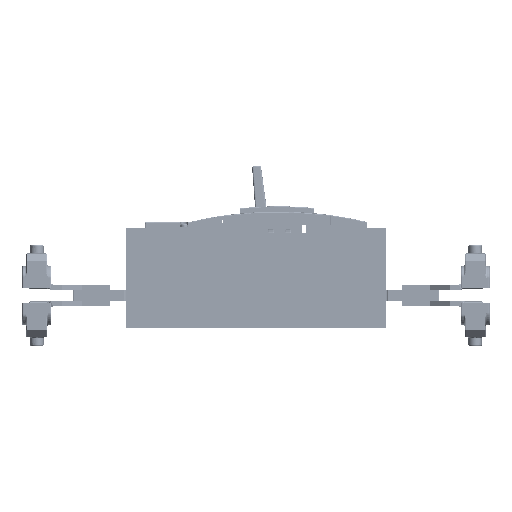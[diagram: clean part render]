
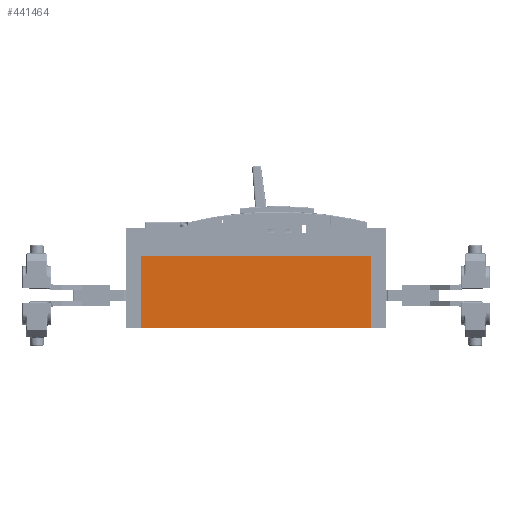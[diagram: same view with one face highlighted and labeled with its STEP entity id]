
A CAD part, left-side view. The second image highlights one B-rep face of the part: STEP entity #441464.
In plain terms, the highlighted planar face has unit normal (-1, 0, 0).
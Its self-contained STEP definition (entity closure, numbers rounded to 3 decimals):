
#268988 = CARTESIAN_POINT ( 'NONE',  ( -185.989, -171.523, -36.706 ) ) ;
#272185 = CARTESIAN_POINT ( 'NONE',  ( -185.989, 138.477, -36.706 ) ) ;
#274931 = DIRECTION ( 'NONE',  ( 0., -1., 0. ) ) ;
#274933 = VECTOR ( 'NONE', #274931, 1000. ) ;
#274938 = CARTESIAN_POINT ( 'NONE',  ( -185.989, -171.523, -36.706 ) ) ;
#274939 = LINE ( 'NONE', #274938, #274933 ) ;
#286376 = CARTESIAN_POINT ( 'NONE',  ( -185.989, 138.477, 59.794 ) ) ;
#287909 = CARTESIAN_POINT ( 'NONE',  ( -185.989, -171.523, 59.794 ) ) ;
#287915 = DIRECTION ( 'NONE',  ( 0., -1., 0. ) ) ;
#287917 = VECTOR ( 'NONE', #287915, 1000. ) ;
#287922 = CARTESIAN_POINT ( 'NONE',  ( -185.989, -171.523, 59.794 ) ) ;
#287925 = LINE ( 'NONE', #287922, #287917 ) ;
#295072 = VERTEX_POINT ( 'NONE', #268988 ) ;
#295881 = VERTEX_POINT ( 'NONE', #272185 ) ;
#296606 = EDGE_CURVE ( 'NONE', #295881, #295072, #274939, .T. ) ;
#299242 = VERTEX_POINT ( 'NONE', #286376 ) ;
#299708 = EDGE_CURVE ( 'NONE', #299242, #299712, #287925, .T. ) ;
#299712 = VERTEX_POINT ( 'NONE', #287909 ) ;
#441084 = EDGE_CURVE ( 'NONE', #299242, #295881, #544728, .T. ) ;
#441113 = EDGE_LOOP ( 'NONE', ( #441296, #441398, #441236, #441273 ) ) ;
#441158 = EDGE_CURVE ( 'NONE', #299712, #295072, #545495, .T. ) ;
#441236 = ORIENTED_EDGE ( 'NONE', *, *, #441158, .F. ) ;
#441273 = ORIENTED_EDGE ( 'NONE', *, *, #299708, .F. ) ;
#441296 = ORIENTED_EDGE ( 'NONE', *, *, #441084, .T. ) ;
#441398 = ORIENTED_EDGE ( 'NONE', *, *, #296606, .T. ) ;
#441464 = ADVANCED_FACE ( 'NONE', ( #547487 ), #547722, .F. ) ;
#544715 = DIRECTION ( 'NONE',  ( 0., 0., -1. ) ) ;
#544720 = VECTOR ( 'NONE', #544715, 1000. ) ;
#544723 = CARTESIAN_POINT ( 'NONE',  ( -185.989, 138.477, 59.794 ) ) ;
#544728 = LINE ( 'NONE', #544723, #544720 ) ;
#545482 = DIRECTION ( 'NONE',  ( 0., 0., -1. ) ) ;
#545484 = VECTOR ( 'NONE', #545482, 1000. ) ;
#545490 = CARTESIAN_POINT ( 'NONE',  ( -185.989, -171.523, 59.794 ) ) ;
#545495 = LINE ( 'NONE', #545490, #545484 ) ;
#547487 = FACE_OUTER_BOUND ( 'NONE', #441113, .T. ) ;
#547699 = DIRECTION ( 'NONE',  ( 0., 0., -1. ) ) ;
#547701 = DIRECTION ( 'NONE',  ( 1., 0., 0. ) ) ;
#547706 = CARTESIAN_POINT ( 'NONE',  ( -185.989, -171.523, 59.794 ) ) ;
#547709 = AXIS2_PLACEMENT_3D ( 'NONE', #547706, #547701, #547699 ) ;
#547722 = PLANE ( 'NONE',  #547709 ) ;
